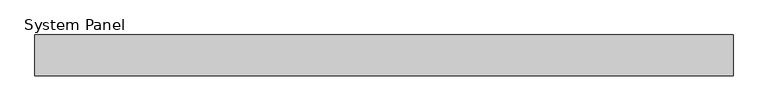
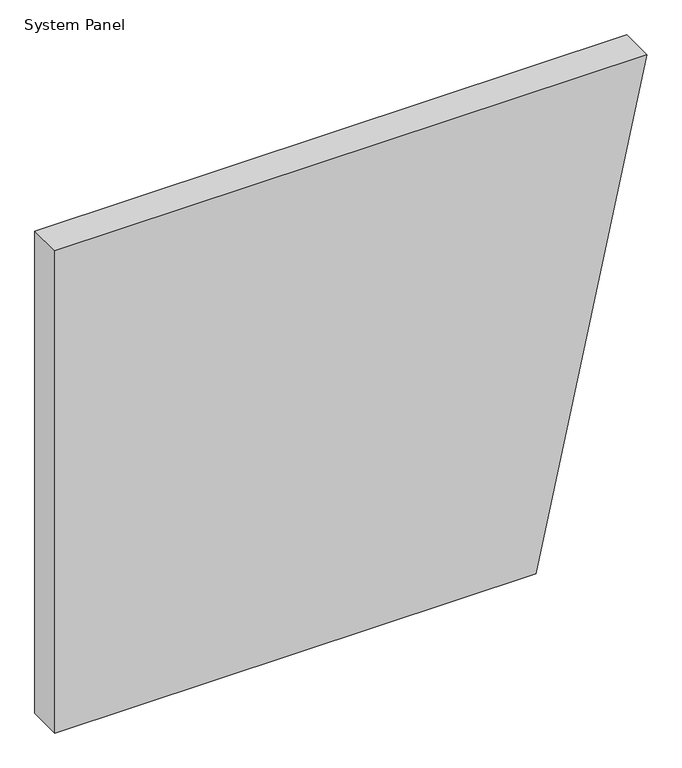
"""IFC4 building model written with IfcOpenShell, lengths in millimetres: plate geometry, System Panel : MetecnoPanel 75mm Horizontal - Plain Astro - PIR."""

from ifc_helpers import new_model, si_unit, frame, origin, place, context, project, spatial, polyline, outline, extrude, source, transform, mapped, element, save


def system_panel_358c47b2(model_context):
    return source(origin(), model_context, "Body", "SweptSolid", [
        extrude(outline(polyline([(0.0, -639.1323567), (0.0, 400.0), (1100.0, 639.1323567), (1100.0, -639.1323567), (0.0, -639.1323567)])), frame((0.0, -75.0, 0.0), z_axis=(0.0, 1.0, 0.0), x_axis=(0.0, 0.0, 1.0)), (0.0, 0.0, 1.0), 75.0),
    ])


if __name__ == "__main__":
    model = new_model("IFC4")
    model_context = context("Model", 3, world=origin())
    ifc_project = project(units=[si_unit("LENGTHUNIT", "METRE", prefix="MILLI")], contexts=[model_context])
    site = spatial("IfcSite", under=ifc_project)
    building = spatial("IfcBuilding", under=site)
    placement = place(None, origin())
    system_panel_shape = system_panel_358c47b2(model_context)
    element("IfcPlate", 1, ObjectType="System Panel : MetecnoPanel 75mm Horizontal - Plain Astro - PIR", at=placement, inside=building, context=model_context, shape_type="MappedRepresentation", body=[
        mapped(system_panel_shape, transform((0.0, 0.0, 0.0), x_axis=(1.0, 0.0, 0.0), y_axis=(0.0, 1.0, 0.0), z_axis=(0.0, 0.0, 1.0))),
    ])
    save(model, "model.ifc")
